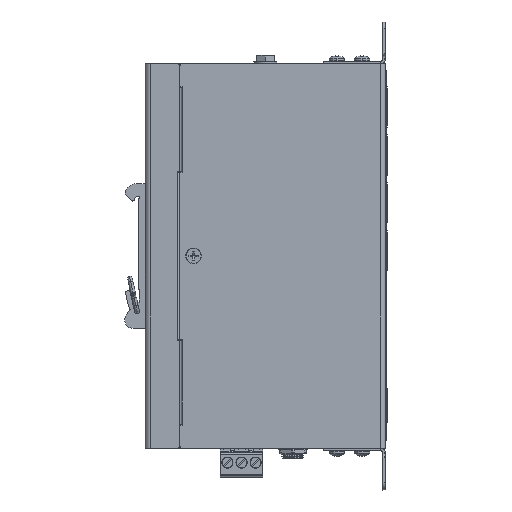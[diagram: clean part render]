
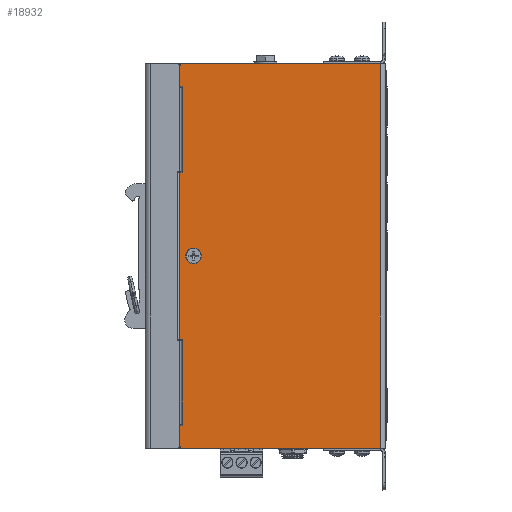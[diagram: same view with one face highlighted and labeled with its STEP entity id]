
A CAD part, top view. The second image highlights one B-rep face of the part: STEP entity #18932.
In plain terms, the highlighted planar face has unit normal (0, 0, 1) as drawn and (0, 0, -1) by its records, which use the part's own axes.
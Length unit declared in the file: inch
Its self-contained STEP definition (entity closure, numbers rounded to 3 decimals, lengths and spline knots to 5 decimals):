
#263 = VECTOR ( 'NONE', #65277, 39.37008 ) ;
#269 = DIRECTION ( 'NONE',  ( -1., 0., 0. ) ) ;
#370 = CARTESIAN_POINT ( 'NONE',  ( 133.91666, 33.94482, 1.0811 ) ) ;
#454 = DIRECTION ( 'NONE',  ( 0., 0., 1. ) ) ;
#619 = VECTOR ( 'NONE', #6398, 39.37008 ) ;
#1186 = CARTESIAN_POINT ( 'NONE',  ( 136.72404, 36.63475, 1.0811 ) ) ;
#1256 = CARTESIAN_POINT ( 'NONE',  ( 136.75529, 31.25489, 1.0811 ) ) ;
#1594 = DIRECTION ( 'NONE',  ( 0., -1., 0. ) ) ;
#2901 = LINE ( 'NONE', #48721, #16989 ) ;
#3128 = FACE_BOUND ( 'NONE', #74628, .T. ) ;
#3380 = VERTEX_POINT ( 'NONE', #24089 ) ;
#3504 = DIRECTION ( 'NONE',  ( 1., 0., 0. ) ) ;
#4272 = ORIENTED_EDGE ( 'NONE', *, *, #40603, .T. ) ;
#5262 = LINE ( 'NONE', #39861, #67219 ) ;
#5531 = LINE ( 'NONE', #45484, #49661 ) ;
#5716 = CARTESIAN_POINT ( 'NONE',  ( 136.72404, 36.34136, 1.0811 ) ) ;
#6198 = CIRCLE ( 'NONE', #47821, 0.11 ) ;
#6398 = DIRECTION ( 'NONE',  ( 0., 1., 0. ) ) ;
#6951 = EDGE_CURVE ( 'NONE', #41441, #40708, #54334, .T. ) ;
#7211 = DIRECTION ( 'NONE',  ( -1., 0., 0. ) ) ;
#7484 = EDGE_CURVE ( 'NONE', #72854, #71291, #62719, .T. ) ;
#8066 = CARTESIAN_POINT ( 'NONE',  ( 136.72404, 31.25489, 1.0811 ) ) ;
#8847 = AXIS2_PLACEMENT_3D ( 'NONE', #8066, #50062, #14114 ) ;
#9033 = ORIENTED_EDGE ( 'NONE', *, *, #20827, .T. ) ;
#9398 = VERTEX_POINT ( 'NONE', #14816 ) ;
#11186 = CARTESIAN_POINT ( 'NONE',  ( 136.75529, 31.54829, 1.0811 ) ) ;
#12212 = VECTOR ( 'NONE', #68664, 39.37008 ) ;
#12252 = DIRECTION ( 'NONE',  ( 0., 0., 1. ) ) ;
#12254 = ORIENTED_EDGE ( 'NONE', *, *, #65911, .T. ) ;
#14114 = DIRECTION ( 'NONE',  ( 1., 0., 0. ) ) ;
#14816 = CARTESIAN_POINT ( 'NONE',  ( 136.75529, 36.63475, 1.0811 ) ) ;
#15253 = DIRECTION ( 'NONE',  ( 1., 0., 0. ) ) ;
#16246 = LINE ( 'NONE', #17515, #263 ) ;
#16989 = VECTOR ( 'NONE', #42728, 39.37008 ) ;
#17515 = CARTESIAN_POINT ( 'NONE',  ( 136.75529, 33.94482, 1.0811 ) ) ;
#17736 = VERTEX_POINT ( 'NONE', #27027 ) ;
#18320 = CARTESIAN_POINT ( 'NONE',  ( 136.72404, 31.22364, 1.0811 ) ) ;
#18932 = ADVANCED_FACE ( 'NONE', ( #3128, #66951 ), #69345, .T. ) ;
#19493 = ORIENTED_EDGE ( 'NONE', *, *, #41506, .T. ) ;
#19733 = EDGE_CURVE ( 'NONE', #55978, #41441, #2901, .T. ) ;
#20827 = EDGE_CURVE ( 'NONE', #71291, #26377, #30842, .T. ) ;
#20855 = CARTESIAN_POINT ( 'NONE',  ( 136.72404, 31.54829, 1.0811 ) ) ;
#21647 = ORIENTED_EDGE ( 'NONE', *, *, #22059, .T. ) ;
#22059 = EDGE_CURVE ( 'NONE', #56050, #9398, #23146, .T. ) ;
#22181 = CARTESIAN_POINT ( 'NONE',  ( 135.33597, 32.76388, 1.0811 ) ) ;
#22273 = ORIENTED_EDGE ( 'NONE', *, *, #65266, .T. ) ;
#22453 = VECTOR ( 'NONE', #15253, 39.37008 ) ;
#23146 = CIRCLE ( 'NONE', #26958, 0.03125 ) ;
#23488 = EDGE_CURVE ( 'NONE', #77389, #73724, #5262, .T. ) ;
#23830 = ORIENTED_EDGE ( 'NONE', *, *, #29501, .T. ) ;
#24089 = CARTESIAN_POINT ( 'NONE',  ( 133.91666, 36.666, 1.0811 ) ) ;
#26377 = VERTEX_POINT ( 'NONE', #36500 ) ;
#26951 = CARTESIAN_POINT ( 'NONE',  ( 135.33597, 31.54829, 1.0811 ) ) ;
#26958 = AXIS2_PLACEMENT_3D ( 'NONE', #1186, #43217, #7211 ) ;
#27027 = CARTESIAN_POINT ( 'NONE',  ( 136.56129, 34.05482, 1.0811 ) ) ;
#27621 = DIRECTION ( 'NONE',  ( 0., 0., -1. ) ) ;
#28165 = CARTESIAN_POINT ( 'NONE',  ( 136.75529, 36.34136, 1.0811 ) ) ;
#28592 = VECTOR ( 'NONE', #64156, 39.37008 ) ;
#28963 = EDGE_CURVE ( 'NONE', #66553, #77389, #44573, .T. ) ;
#28970 = VECTOR ( 'NONE', #269, 39.37008 ) ;
#29240 = AXIS2_PLACEMENT_3D ( 'NONE', #63572, #27621, #69599 ) ;
#29501 = EDGE_CURVE ( 'NONE', #38630, #72854, #16246, .T. ) ;
#30583 = VECTOR ( 'NONE', #57811, 39.37008 ) ;
#30842 = LINE ( 'NONE', #48297, #28970 ) ;
#31655 = EDGE_CURVE ( 'NONE', #65378, #17736, #68720, .T. ) ;
#32410 = LINE ( 'NONE', #49364, #66219 ) ;
#32463 = LINE ( 'NONE', #75656, #30583 ) ;
#36463 = CARTESIAN_POINT ( 'NONE',  ( 136.56129, 33.94482, 1.0811 ) ) ;
#36500 = CARTESIAN_POINT ( 'NONE',  ( 133.91666, 31.22364, 1.0811 ) ) ;
#37823 = ORIENTED_EDGE ( 'NONE', *, *, #40041, .T. ) ;
#38630 = VERTEX_POINT ( 'NONE', #11186 ) ;
#39861 = CARTESIAN_POINT ( 'NONE',  ( 136.72404, 33.94482, 1.0811 ) ) ;
#40041 = EDGE_CURVE ( 'NONE', #73724, #38630, #63894, .T. ) ;
#40603 = EDGE_CURVE ( 'NONE', #3380, #56050, #5531, .T. ) ;
#40708 = VERTEX_POINT ( 'NONE', #28165 ) ;
#41441 = VERTEX_POINT ( 'NONE', #5716 ) ;
#41506 = EDGE_CURVE ( 'NONE', #17736, #65378, #6198, .T. ) ;
#42500 = DIRECTION ( 'NONE',  ( 0., 1., 0. ) ) ;
#42728 = DIRECTION ( 'NONE',  ( 0., 1., 0. ) ) ;
#43217 = DIRECTION ( 'NONE',  ( 0., 0., -1. ) ) ;
#44321 = CARTESIAN_POINT ( 'NONE',  ( 136.72404, 35.12577, 1.0811 ) ) ;
#44573 = LINE ( 'NONE', #22181, #28592 ) ;
#44936 = EDGE_CURVE ( 'NONE', #72507, #66553, #76540, .T. ) ;
#45332 = CARTESIAN_POINT ( 'NONE',  ( 136.72404, 36.666, 1.0811 ) ) ;
#45484 = CARTESIAN_POINT ( 'NONE',  ( 135.33597, 36.666, 1.0811 ) ) ;
#45765 = ORIENTED_EDGE ( 'NONE', *, *, #23488, .T. ) ;
#47821 = AXIS2_PLACEMENT_3D ( 'NONE', #48221, #12252, #54256 ) ;
#48221 = CARTESIAN_POINT ( 'NONE',  ( 136.56129, 33.94482, 1.0811 ) ) ;
#48297 = CARTESIAN_POINT ( 'NONE',  ( 135.33597, 31.22364, 1.0811 ) ) ;
#48540 = LINE ( 'NONE', #370, #619 ) ;
#48721 = CARTESIAN_POINT ( 'NONE',  ( 136.72404, 35.73356, 1.0811 ) ) ;
#49364 = CARTESIAN_POINT ( 'NONE',  ( 136.75529, 33.94482, 1.0811 ) ) ;
#49471 = ORIENTED_EDGE ( 'NONE', *, *, #7484, .T. ) ;
#49661 = VECTOR ( 'NONE', #3504, 39.37008 ) ;
#50062 = DIRECTION ( 'NONE',  ( 0., 0., -1. ) ) ;
#51184 = CARTESIAN_POINT ( 'NONE',  ( 136.73966, 36.34136, 1.0811 ) ) ;
#51687 = EDGE_CURVE ( 'NONE', #55978, #72507, #32463, .T. ) ;
#54256 = DIRECTION ( 'NONE',  ( 0., 1., 0. ) ) ;
#54334 = LINE ( 'NONE', #51184, #22453 ) ;
#55978 = VERTEX_POINT ( 'NONE', #44321 ) ;
#56050 = VERTEX_POINT ( 'NONE', #45332 ) ;
#57811 = DIRECTION ( 'NONE',  ( 1., 0., 0. ) ) ;
#58712 = VECTOR ( 'NONE', #69107, 39.37008 ) ;
#60620 = ORIENTED_EDGE ( 'NONE', *, *, #44936, .T. ) ;
#61333 = CARTESIAN_POINT ( 'NONE',  ( 136.75529, 32.76388, 1.0811 ) ) ;
#62719 = CIRCLE ( 'NONE', #8847, 0.03125 ) ;
#63070 = CARTESIAN_POINT ( 'NONE',  ( 136.75529, 33.94482, 1.0811 ) ) ;
#63572 = CARTESIAN_POINT ( 'NONE',  ( 136.82625, 36.80206, 1.0811 ) ) ;
#63894 = LINE ( 'NONE', #26951, #12212 ) ;
#64156 = DIRECTION ( 'NONE',  ( -1., 0., 0. ) ) ;
#64236 = ORIENTED_EDGE ( 'NONE', *, *, #51687, .T. ) ;
#65123 = AXIS2_PLACEMENT_3D ( 'NONE', #36463, #454, #42500 ) ;
#65266 = EDGE_CURVE ( 'NONE', #26377, #3380, #48540, .T. ) ;
#65277 = DIRECTION ( 'NONE',  ( 0., -1., 0. ) ) ;
#65378 = VERTEX_POINT ( 'NONE', #73576 ) ;
#65911 = EDGE_CURVE ( 'NONE', #9398, #40708, #32410, .T. ) ;
#66219 = VECTOR ( 'NONE', #1594, 39.37008 ) ;
#66553 = VERTEX_POINT ( 'NONE', #61333 ) ;
#66951 = FACE_OUTER_BOUND ( 'NONE', #73133, .T. ) ;
#67219 = VECTOR ( 'NONE', #75794, 39.37008 ) ;
#68281 = CARTESIAN_POINT ( 'NONE',  ( 136.72404, 32.76388, 1.0811 ) ) ;
#68664 = DIRECTION ( 'NONE',  ( 1., 0., 0. ) ) ;
#68720 = CIRCLE ( 'NONE', #65123, 0.11 ) ;
#69107 = DIRECTION ( 'NONE',  ( 0., -1., 0. ) ) ;
#69204 = ORIENTED_EDGE ( 'NONE', *, *, #28963, .T. ) ;
#69345 = PLANE ( 'NONE',  #29240 ) ;
#69599 = DIRECTION ( 'NONE',  ( 0., -1., 0. ) ) ;
#70177 = ORIENTED_EDGE ( 'NONE', *, *, #19733, .F. ) ;
#71291 = VERTEX_POINT ( 'NONE', #18320 ) ;
#72507 = VERTEX_POINT ( 'NONE', #76380 ) ;
#72854 = VERTEX_POINT ( 'NONE', #1256 ) ;
#73133 = EDGE_LOOP ( 'NONE', ( #23830, #49471, #9033, #22273, #4272, #21647, #12254, #76996, #70177, #64236, #60620, #69204, #45765, #37823 ) ) ;
#73576 = CARTESIAN_POINT ( 'NONE',  ( 136.56129, 33.83482, 1.0811 ) ) ;
#73724 = VERTEX_POINT ( 'NONE', #20855 ) ;
#74007 = ORIENTED_EDGE ( 'NONE', *, *, #31655, .T. ) ;
#74628 = EDGE_LOOP ( 'NONE', ( #19493, #74007 ) ) ;
#75656 = CARTESIAN_POINT ( 'NONE',  ( 135.33597, 35.12577, 1.0811 ) ) ;
#75794 = DIRECTION ( 'NONE',  ( 0., -1., 0. ) ) ;
#76380 = CARTESIAN_POINT ( 'NONE',  ( 136.75529, 35.12577, 1.0811 ) ) ;
#76540 = LINE ( 'NONE', #63070, #58712 ) ;
#76996 = ORIENTED_EDGE ( 'NONE', *, *, #6951, .F. ) ;
#77389 = VERTEX_POINT ( 'NONE', #68281 ) ;
